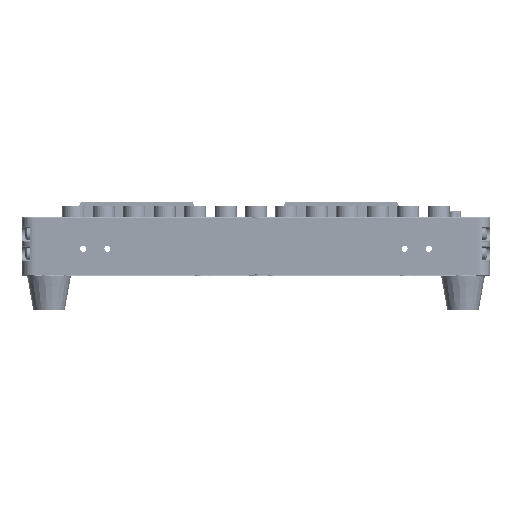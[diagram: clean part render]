
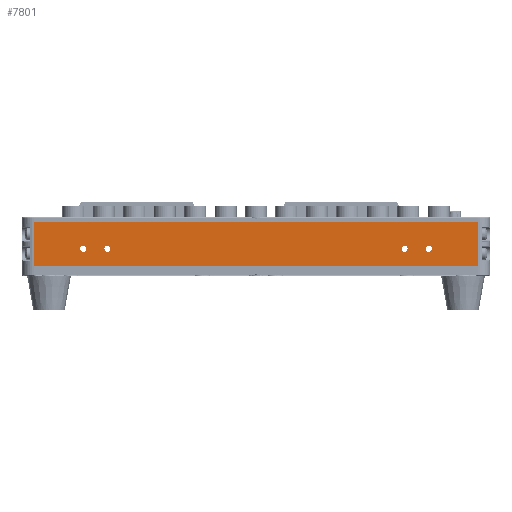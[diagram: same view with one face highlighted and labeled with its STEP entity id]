
A CAD part, left-side view. The second image highlights one B-rep face of the part: STEP entity #7801.
In plain terms, the highlighted planar face has unit normal (-1, 0, 0).
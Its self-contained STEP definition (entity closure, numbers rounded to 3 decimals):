
#2246 = DIRECTION ( 'NONE',  ( -1., 0., 0. ) ) ;
#2895 = DIRECTION ( 'NONE',  ( 0., 0., 1. ) ) ;
#6955 = FACE_BOUND ( 'NONE', #96574, .T. ) ;
#7801 = ADVANCED_FACE ( 'NONE', ( #153095, #6955, #68808, #170359, #86134 ), #163225, .F. ) ;
#11037 = CARTESIAN_POINT ( 'NONE',  ( -305.562, 94.949, 452. ) ) ;
#11287 = LINE ( 'NONE', #11037, #33501 ) ;
#15980 = LINE ( 'NONE', #176514, #117418 ) ;
#16205 = EDGE_CURVE ( 'NONE', #81582, #68611, #165253, .T. ) ;
#16241 = CARTESIAN_POINT ( 'NONE',  ( -305.562, 73.699, 459. ) ) ;
#17978 = DIRECTION ( 'NONE',  ( 0., -1., 0. ) ) ;
#18186 = EDGE_LOOP ( 'NONE', ( #160990, #87780 ) ) ;
#22769 = VERTEX_POINT ( 'NONE', #91820 ) ;
#24212 = CARTESIAN_POINT ( 'NONE',  ( -305.562, 94.949, 470. ) ) ;
#26091 = AXIS2_PLACEMENT_3D ( 'NONE', #47666, #125868, #32444 ) ;
#27530 = ORIENTED_EDGE ( 'NONE', *, *, #16205, .F. ) ;
#29050 = ORIENTED_EDGE ( 'NONE', *, *, #164635, .T. ) ;
#29094 = AXIS2_PLACEMENT_3D ( 'NONE', #49788, #112072, #17978 ) ;
#32444 = DIRECTION ( 'NONE',  ( 0., 1., 0. ) ) ;
#33501 = VECTOR ( 'NONE', #73232, 1000. ) ;
#34019 = DIRECTION ( 'NONE',  ( 0., 1., 0. ) ) ;
#34105 = AXIS2_PLACEMENT_3D ( 'NONE', #87049, #90574, #123074 ) ;
#36069 = VERTEX_POINT ( 'NONE', #52654 ) ;
#40797 = VECTOR ( 'NONE', #167020, 1000. ) ;
#40836 = CARTESIAN_POINT ( 'NONE',  ( -305.562, -57.051, 459. ) ) ;
#43810 = ORIENTED_EDGE ( 'NONE', *, *, #146725, .T. ) ;
#47666 = CARTESIAN_POINT ( 'NONE',  ( -305.562, -67.051, 459. ) ) ;
#47960 = ORIENTED_EDGE ( 'NONE', *, *, #199157, .T. ) ;
#49788 = CARTESIAN_POINT ( 'NONE',  ( -305.562, 74.949, 459. ) ) ;
#52475 = DIRECTION ( 'NONE',  ( 0., 1., 0. ) ) ;
#52654 = CARTESIAN_POINT ( 'NONE',  ( -305.562, -55.801, 459. ) ) ;
#54013 = DIRECTION ( 'NONE',  ( -1., 0., 0. ) ) ;
#55395 = DIRECTION ( 'NONE',  ( 0., -1., 0. ) ) ;
#56228 = CARTESIAN_POINT ( 'NONE',  ( -305.562, 94.949, 452. ) ) ;
#63691 = AXIS2_PLACEMENT_3D ( 'NONE', #40836, #119711, #85134 ) ;
#67423 = AXIS2_PLACEMENT_3D ( 'NONE', #112208, #2246, #34019 ) ;
#68611 = VERTEX_POINT ( 'NONE', #152727 ) ;
#68808 = FACE_BOUND ( 'NONE', #193692, .T. ) ;
#69728 = VERTEX_POINT ( 'NONE', #116854 ) ;
#71944 = DIRECTION ( 'NONE',  ( 0., 1., 0. ) ) ;
#73232 = DIRECTION ( 'NONE',  ( 0., 0., -1. ) ) ;
#75692 = VECTOR ( 'NONE', #71944, 1000. ) ;
#79028 = CARTESIAN_POINT ( 'NONE',  ( -305.562, -87.051, 452. ) ) ;
#79634 = DIRECTION ( 'NONE',  ( -1., 0., 0. ) ) ;
#81582 = VERTEX_POINT ( 'NONE', #115885 ) ;
#85134 = DIRECTION ( 'NONE',  ( 0., 1., 0. ) ) ;
#86134 = FACE_OUTER_BOUND ( 'NONE', #126010, .T. ) ;
#86257 = CIRCLE ( 'NONE', #63691, 1.25 ) ;
#87049 = CARTESIAN_POINT ( 'NONE',  ( -305.562, -67.051, 459. ) ) ;
#87315 = ORIENTED_EDGE ( 'NONE', *, *, #162652, .F. ) ;
#87780 = ORIENTED_EDGE ( 'NONE', *, *, #95813, .F. ) ;
#90574 = DIRECTION ( 'NONE',  ( -1., 0., 0. ) ) ;
#91820 = CARTESIAN_POINT ( 'NONE',  ( -305.562, 94.949, 470. ) ) ;
#94325 = EDGE_CURVE ( 'NONE', #100036, #69728, #201836, .T. ) ;
#95813 = EDGE_CURVE ( 'NONE', #69728, #100036, #114465, .T. ) ;
#96574 = EDGE_LOOP ( 'NONE', ( #87315, #190634 ) ) ;
#99212 = AXIS2_PLACEMENT_3D ( 'NONE', #100896, #130713, #52475 ) ;
#99729 = EDGE_LOOP ( 'NONE', ( #126495, #187851 ) ) ;
#100036 = VERTEX_POINT ( 'NONE', #16241 ) ;
#100896 = CARTESIAN_POINT ( 'NONE',  ( -305.562, 3.949, 461. ) ) ;
#103404 = EDGE_CURVE ( 'NONE', #168745, #127298, #105972, .T. ) ;
#105972 = CIRCLE ( 'NONE', #150973, 1.25 ) ;
#112072 = DIRECTION ( 'NONE',  ( -1., 0., 0. ) ) ;
#112208 = CARTESIAN_POINT ( 'NONE',  ( -305.562, -57.051, 459. ) ) ;
#114465 = CIRCLE ( 'NONE', #29094, 1.25 ) ;
#115885 = CARTESIAN_POINT ( 'NONE',  ( -305.562, -68.301, 459. ) ) ;
#116854 = CARTESIAN_POINT ( 'NONE',  ( -305.562, 76.199, 459. ) ) ;
#117225 = CARTESIAN_POINT ( 'NONE',  ( -305.562, -87.051, 470. ) ) ;
#117418 = VECTOR ( 'NONE', #2895, 1000. ) ;
#119711 = DIRECTION ( 'NONE',  ( -1., 0., 0. ) ) ;
#122562 = VERTEX_POINT ( 'NONE', #128041 ) ;
#123074 = DIRECTION ( 'NONE',  ( 0., 1., 0. ) ) ;
#125348 = CARTESIAN_POINT ( 'NONE',  ( -305.562, 74.949, 459. ) ) ;
#125868 = DIRECTION ( 'NONE',  ( -1., 0., 0. ) ) ;
#126010 = EDGE_LOOP ( 'NONE', ( #47960, #165503, #29050, #43810 ) ) ;
#126495 = ORIENTED_EDGE ( 'NONE', *, *, #145124, .F. ) ;
#127298 = VERTEX_POINT ( 'NONE', #171367 ) ;
#128007 = EDGE_CURVE ( 'NONE', #36069, #122562, #185938, .T. ) ;
#128041 = CARTESIAN_POINT ( 'NONE',  ( -305.562, -58.301, 459. ) ) ;
#129929 = LINE ( 'NONE', #56228, #40797 ) ;
#130507 = CIRCLE ( 'NONE', #174706, 1.25 ) ;
#130713 = DIRECTION ( 'NONE',  ( 1., 0., 0. ) ) ;
#131164 = CARTESIAN_POINT ( 'NONE',  ( -305.562, 66.199, 459. ) ) ;
#132239 = ORIENTED_EDGE ( 'NONE', *, *, #143707, .F. ) ;
#140913 = CARTESIAN_POINT ( 'NONE',  ( -305.562, 94.949, 452. ) ) ;
#142611 = DIRECTION ( 'NONE',  ( 0., -1., 0. ) ) ;
#143707 = EDGE_CURVE ( 'NONE', #68611, #81582, #177701, .T. ) ;
#145124 = EDGE_CURVE ( 'NONE', #127298, #168745, #130507, .T. ) ;
#145715 = EDGE_CURVE ( 'NONE', #178548, #22769, #196989, .T. ) ;
#146725 = EDGE_CURVE ( 'NONE', #149728, #203029, #129929, .T. ) ;
#147004 = DIRECTION ( 'NONE',  ( -1., 0., 0. ) ) ;
#148868 = CARTESIAN_POINT ( 'NONE',  ( -305.562, 64.949, 459. ) ) ;
#149728 = VERTEX_POINT ( 'NONE', #140913 ) ;
#150973 = AXIS2_PLACEMENT_3D ( 'NONE', #148868, #54013, #55395 ) ;
#152727 = CARTESIAN_POINT ( 'NONE',  ( -305.562, -65.801, 459. ) ) ;
#153095 = FACE_BOUND ( 'NONE', #99729, .T. ) ;
#160990 = ORIENTED_EDGE ( 'NONE', *, *, #94325, .F. ) ;
#162652 = EDGE_CURVE ( 'NONE', #122562, #36069, #86257, .T. ) ;
#163225 = PLANE ( 'NONE',  #99212 ) ;
#164635 = EDGE_CURVE ( 'NONE', #22769, #149728, #11287, .T. ) ;
#165253 = CIRCLE ( 'NONE', #26091, 1.25 ) ;
#165503 = ORIENTED_EDGE ( 'NONE', *, *, #145715, .T. ) ;
#167020 = DIRECTION ( 'NONE',  ( 0., -1., 0. ) ) ;
#168009 = AXIS2_PLACEMENT_3D ( 'NONE', #125348, #79634, #142611 ) ;
#168745 = VERTEX_POINT ( 'NONE', #131164 ) ;
#170359 = FACE_BOUND ( 'NONE', #18186, .T. ) ;
#171367 = CARTESIAN_POINT ( 'NONE',  ( -305.562, 63.699, 459. ) ) ;
#174706 = AXIS2_PLACEMENT_3D ( 'NONE', #178119, #147004, #178801 ) ;
#176514 = CARTESIAN_POINT ( 'NONE',  ( -305.562, -87.051, 452. ) ) ;
#177701 = CIRCLE ( 'NONE', #34105, 1.25 ) ;
#178119 = CARTESIAN_POINT ( 'NONE',  ( -305.562, 64.949, 459. ) ) ;
#178548 = VERTEX_POINT ( 'NONE', #117225 ) ;
#178801 = DIRECTION ( 'NONE',  ( 0., -1., 0. ) ) ;
#185938 = CIRCLE ( 'NONE', #67423, 1.25 ) ;
#187851 = ORIENTED_EDGE ( 'NONE', *, *, #103404, .F. ) ;
#190634 = ORIENTED_EDGE ( 'NONE', *, *, #128007, .F. ) ;
#193692 = EDGE_LOOP ( 'NONE', ( #27530, #132239 ) ) ;
#196989 = LINE ( 'NONE', #24212, #75692 ) ;
#199157 = EDGE_CURVE ( 'NONE', #203029, #178548, #15980, .T. ) ;
#201836 = CIRCLE ( 'NONE', #168009, 1.25 ) ;
#203029 = VERTEX_POINT ( 'NONE', #79028 ) ;
